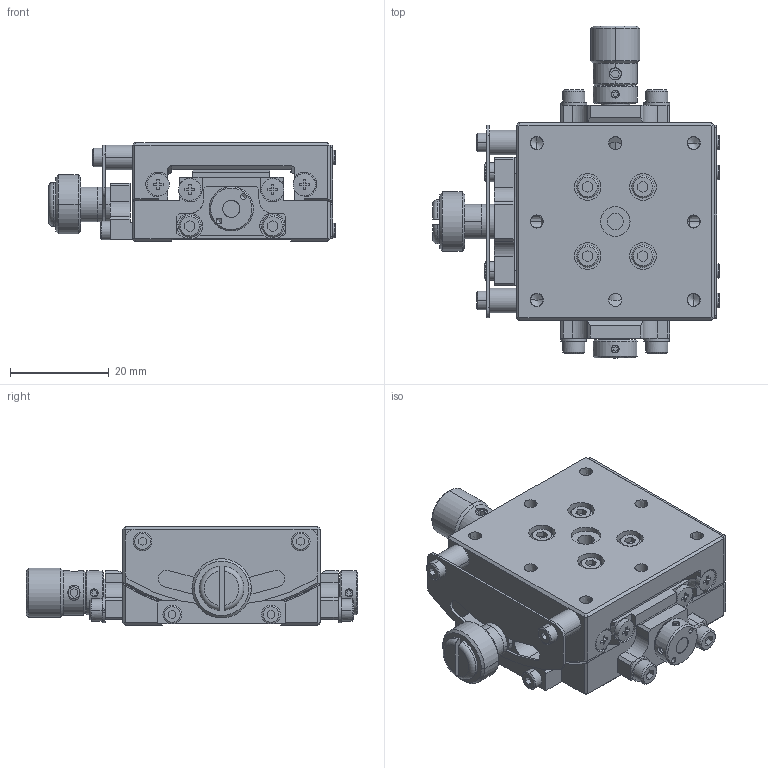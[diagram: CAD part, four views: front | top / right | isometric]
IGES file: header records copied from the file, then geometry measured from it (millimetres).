
Global section: file name: No Iges File Name specified; native system: AutoDesk Inventor R12.0; preprocessor: AutoDesk Inventor Iges Exporter R12.0; date: 20140115.174258; units: millimetre
Bounding box: 58.1 x 67.2 x 20 mm (x, y, z)
Volume: 29625.5 mm3; surface area: 19995.9 mm2
Topology: 43 solids, 61 shells, 1424 faces, 3576 edges, 2238 vertices
Faces by surface type: plane 628, bspline 332, cylinder 180, revolution 118, cone 112, sphere 44, torus 10
